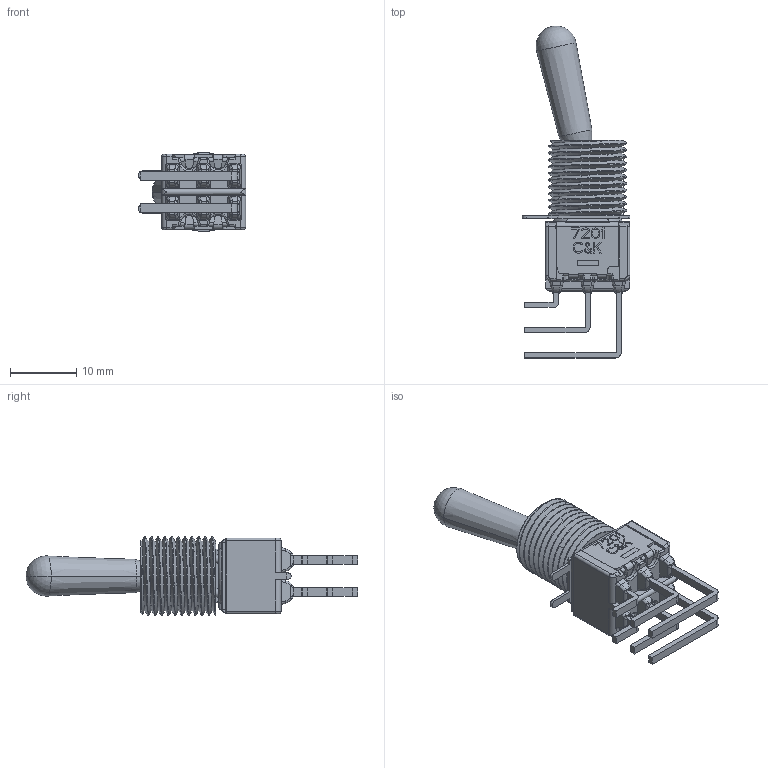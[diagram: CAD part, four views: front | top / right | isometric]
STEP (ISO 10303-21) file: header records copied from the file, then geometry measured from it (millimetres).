
FILE_DESCRIPTION((''),'2;1');
FILE_NAME('72XXTAV2_SW0001_PRT','2012-08-08T',('jtrepler'),(''),'PRO/ENGINEER BY PARAMETRIC TECHNOLOGY CORPORATION, 2011080','PRO/ENGINEER BY PARAMETRIC TECHNOLOGY CORPORATION, 2011080','');
FILE_SCHEMA(('AUTOMOTIVE_DESIGN_CC2 { 1 2 10303 214 -1 1 5 2 }'));
Length unit declared in the file: inch
Products named in the file (1): 72XXTAV2_SW0001_PRT
Bounding box: 16.21 x 50.06 x 11.91 mm (x, y, z)
Volume: 2146.4 mm3; surface area: 3686.7 mm2
Topology: 2 solids, 2 shells, 1062 faces, 2906 edges, 1835 vertices
Faces by surface type: plane 704, cylinder 204, bspline 110, cone 16, torus 16, sphere 12
Entity records: 43469 total; most frequent: CARTESIAN_POINT 17594, ORIENTED_EDGE 5804, DIRECTION 4723, EDGE_CURVE 2902, VECTOR 2097, LINE 2097, VERTEX_POINT 1835, AXIS2_PLACEMENT_3D 1313
